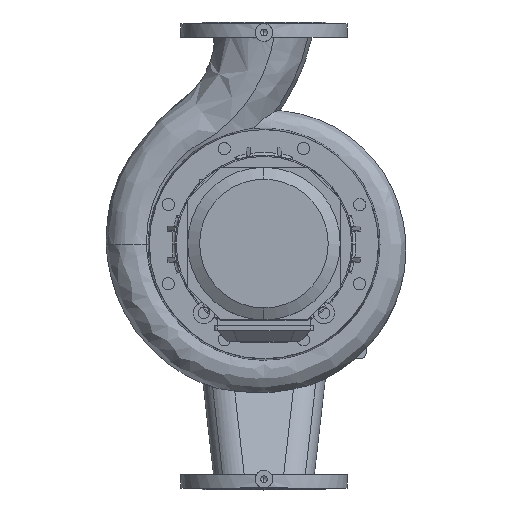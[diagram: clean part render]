
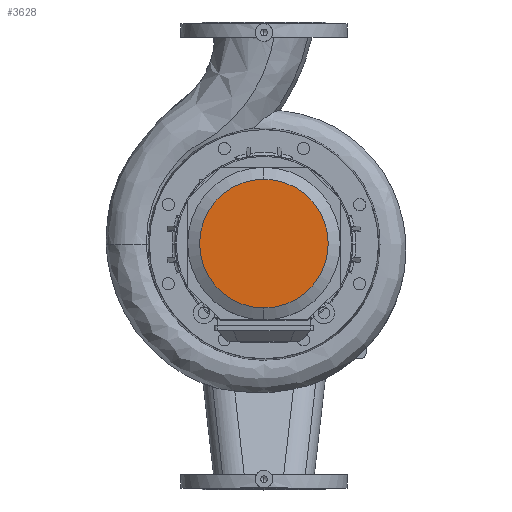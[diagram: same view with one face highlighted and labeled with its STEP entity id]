
A CAD part, top view. The second image highlights one B-rep face of the part: STEP entity #3628.
In plain terms, the highlighted planar face has unit normal (0, 0, 1) as drawn and (0, 1, 0) by its records, which use the part's own axes.
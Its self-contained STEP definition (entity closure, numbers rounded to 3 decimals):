
#3628=ADVANCED_FACE('F159',(#7442),#7443,.T.);
#7442=FACE_OUTER_BOUND('',#11426,.T.);
#7443=PLANE('',#11427);
#11426=EDGE_LOOP('',(#13202,#13203));
#11427=AXIS2_PLACEMENT_3D('',#13204,#13205,#13206);
#13202=ORIENTED_EDGE('',*,*,#15968,.T.);
#13203=ORIENTED_EDGE('',*,*,#15894,.T.);
#13204=CARTESIAN_POINT('',(-121.0,166.0,-121.0));
#13205=DIRECTION('',(0.0,1.0,0.0));
#13206=DIRECTION('',(1.0,0.0,-0.0));
#15894=EDGE_CURVE('E447',#20503,#20501,#20504,.T.);
#15968=EDGE_CURVE('E447',#20501,#20503,#20625,.T.);
#20501=VERTEX_POINT('',#22425);
#20503=VERTEX_POINT('',#22428);
#20504=CIRCLE('',#22429,110.0);
#20625=CIRCLE('',#22609,110.0);
#22425=CARTESIAN_POINT('',(0.,166.0,-110.0));
#22428=CARTESIAN_POINT('',(0.,166.0,110.0));
#22429=AXIS2_PLACEMENT_3D('',#23690,#23691,#23692);
#22609=AXIS2_PLACEMENT_3D('',#23794,#23795,#23796);
#23690=CARTESIAN_POINT('',(0.0,166.0,0.0));
#23691=DIRECTION('',(0.0,1.0,0.0));
#23692=DIRECTION('',(0.0,0.0,1.0));
#23794=CARTESIAN_POINT('',(0.0,166.0,0.0));
#23795=DIRECTION('',(0.0,1.0,0.0));
#23796=DIRECTION('',(0.0,0.0,1.0));
